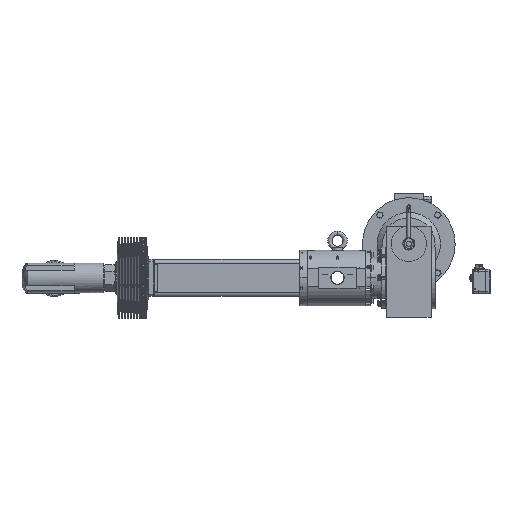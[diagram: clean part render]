
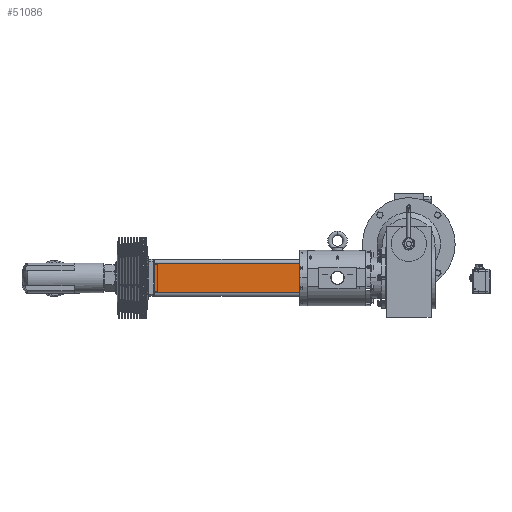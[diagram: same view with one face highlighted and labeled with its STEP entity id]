
A CAD part, top view. The second image highlights one B-rep face of the part: STEP entity #51086.
In plain terms, the highlighted planar face has unit normal (0, 0, 1).
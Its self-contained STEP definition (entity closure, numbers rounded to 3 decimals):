
#5090 = LINE ( 'NONE', #43012, #5094 ) ;
#5094 = VECTOR ( 'NONE', #43023, 1000. ) ;
#8714 = VERTEX_POINT ( 'NONE', #27159 ) ;
#8732 = VERTEX_POINT ( 'NONE', #27177 ) ;
#8742 = VERTEX_POINT ( 'NONE', #27187 ) ;
#8750 = VERTEX_POINT ( 'NONE', #27195 ) ;
#20115 = ORIENTED_EDGE ( 'NONE', *, *, #33227, .F. ) ;
#20118 = ORIENTED_EDGE ( 'NONE', *, *, #33532, .F. ) ;
#20121 = ORIENTED_EDGE ( 'NONE', *, *, #33453, .T. ) ;
#20125 = ORIENTED_EDGE ( 'NONE', *, *, #33457, .T. ) ;
#27159 = CARTESIAN_POINT ( 'NONE',  ( 2., 48., 60. ) ) ;
#27177 = CARTESIAN_POINT ( 'NONE',  ( 2., -48., 60. ) ) ;
#27187 = CARTESIAN_POINT ( 'NONE',  ( 480., 48., 60. ) ) ;
#27195 = CARTESIAN_POINT ( 'NONE',  ( 480., -48., 60. ) ) ;
#32005 = EDGE_LOOP ( 'NONE', ( #20125, #20121, #20118, #20115 ) ) ;
#32923 = LINE ( 'NONE', #43435, #32940 ) ;
#32926 = LINE ( 'NONE', #43447, #32933 ) ;
#32933 = VECTOR ( 'NONE', #43451, 1000. ) ;
#32940 = VECTOR ( 'NONE', #43453, 1000. ) ;
#33007 = LINE ( 'NONE', #43598, #33046 ) ;
#33046 = VECTOR ( 'NONE', #43582, 1000. ) ;
#33227 = EDGE_CURVE ( 'NONE', #8742, #8750, #5090, .T. ) ;
#33453 = EDGE_CURVE ( 'NONE', #8714, #8732, #32926, .T. ) ;
#33457 = EDGE_CURVE ( 'NONE', #8742, #8714, #32923, .T. ) ;
#33532 = EDGE_CURVE ( 'NONE', #8750, #8732, #33007, .T. ) ;
#43012 = CARTESIAN_POINT ( 'NONE',  ( 480., 48., 60. ) ) ;
#43023 = DIRECTION ( 'NONE',  ( 0., -1., 0. ) ) ;
#43435 = CARTESIAN_POINT ( 'NONE',  ( 480., 48., 60. ) ) ;
#43447 = CARTESIAN_POINT ( 'NONE',  ( 2., 48., 60. ) ) ;
#43451 = DIRECTION ( 'NONE',  ( 0., -1., 0. ) ) ;
#43453 = DIRECTION ( 'NONE',  ( -1., 0., 0. ) ) ;
#43582 = DIRECTION ( 'NONE',  ( -1., 0., 0. ) ) ;
#43598 = CARTESIAN_POINT ( 'NONE',  ( 480., -48., 60. ) ) ;
#47330 = AXIS2_PLACEMENT_3D ( 'NONE', #54827, #54833, #54834 ) ;
#50187 = FACE_OUTER_BOUND ( 'NONE', #32005, .T. ) ;
#51086 = ADVANCED_FACE ( 'NONE', ( #50187 ), #54831, .F. ) ;
#54827 = CARTESIAN_POINT ( 'NONE',  ( 480., 48., 60. ) ) ;
#54831 = PLANE ( 'NONE',  #47330 ) ;
#54833 = DIRECTION ( 'NONE',  ( 0., 0., -1. ) ) ;
#54834 = DIRECTION ( 'NONE',  ( -1., 0., 0. ) ) ;
